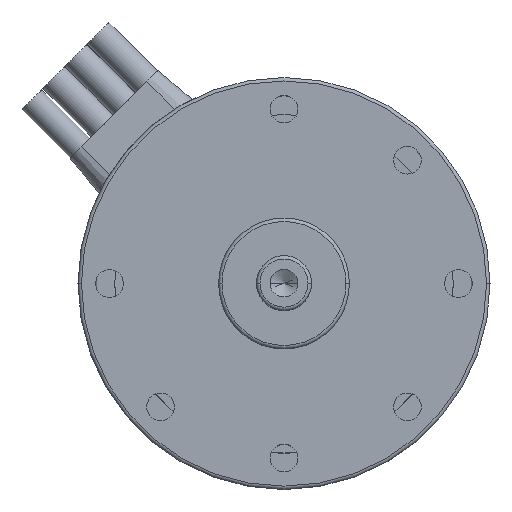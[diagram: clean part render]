
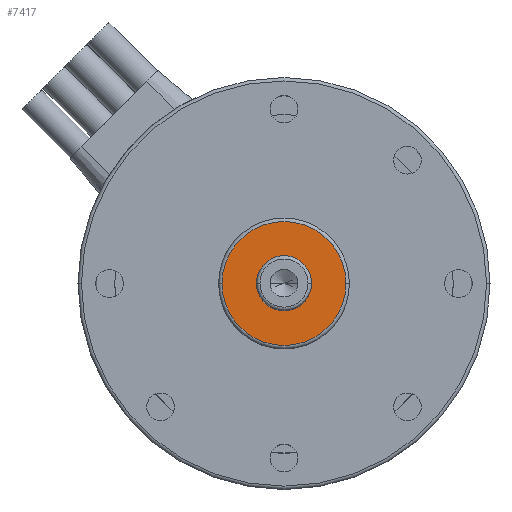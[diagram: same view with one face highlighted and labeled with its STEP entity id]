
A CAD part, top view. The second image highlights one B-rep face of the part: STEP entity #7417.
In plain terms, the highlighted planar face has unit normal (0, 0, 1).
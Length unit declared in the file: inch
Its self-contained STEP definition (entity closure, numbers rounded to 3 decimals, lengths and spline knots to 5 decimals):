
#1169 = CARTESIAN_POINT ( 'NONE',  ( -0.35531, 0., 0.1378 ) ) ;
#2044 = EDGE_CURVE ( 'NONE', #28062, #19177, #24865, .T. ) ;
#3781 = DIRECTION ( 'NONE',  ( 1., 0., 0. ) ) ;
#5464 = ORIENTED_EDGE ( 'NONE', *, *, #47372, .T. ) ;
#7417 = ADVANCED_FACE ( 'NONE', ( #23208, #64003 ), #53141, .T. ) ;
#8557 = DIRECTION ( 'NONE',  ( 1., 0., 0. ) ) ;
#9312 = DIRECTION ( 'NONE',  ( 0., 0., 1. ) ) ;
#13950 = CIRCLE ( 'NONE', #14974, 0.15748 ) ;
#14974 = AXIS2_PLACEMENT_3D ( 'NONE', #18538, #9312, #58663 ) ;
#17221 = CIRCLE ( 'NONE', #45558, 0.15748 ) ;
#18538 = CARTESIAN_POINT ( 'NONE',  ( 0., 0., 0.1378 ) ) ;
#19177 = VERTEX_POINT ( 'NONE', #58506 ) ;
#22391 = EDGE_CURVE ( 'NONE', #52031, #24825, #17221, .T. ) ;
#23208 = FACE_BOUND ( 'NONE', #63582, .T. ) ;
#23270 = CARTESIAN_POINT ( 'NONE',  ( 0.15748, 0., 0.1378 ) ) ;
#23939 = DIRECTION ( 'NONE',  ( 1., 0., 0. ) ) ;
#24825 = VERTEX_POINT ( 'NONE', #53443 ) ;
#24865 = CIRCLE ( 'NONE', #27971, 0.35531 ) ;
#27842 = AXIS2_PLACEMENT_3D ( 'NONE', #48529, #43897, #3781 ) ;
#27971 = AXIS2_PLACEMENT_3D ( 'NONE', #34417, #59791, #23939 ) ;
#28062 = VERTEX_POINT ( 'NONE', #1169 ) ;
#28770 = DIRECTION ( 'NONE',  ( 0., 0., 1. ) ) ;
#28930 = ORIENTED_EDGE ( 'NONE', *, *, #2044, .T. ) ;
#31452 = EDGE_CURVE ( 'NONE', #24825, #52031, #13950, .T. ) ;
#33379 = CARTESIAN_POINT ( 'NONE',  ( 0., 0., 0.1378 ) ) ;
#34287 = ORIENTED_EDGE ( 'NONE', *, *, #31452, .F. ) ;
#34417 = CARTESIAN_POINT ( 'NONE',  ( 0., 0., 0.1378 ) ) ;
#37824 = DIRECTION ( 'NONE',  ( 0., 0., 1. ) ) ;
#43260 = DIRECTION ( 'NONE',  ( 1., 0., 0. ) ) ;
#43897 = DIRECTION ( 'NONE',  ( 0., 0., 1. ) ) ;
#45558 = AXIS2_PLACEMENT_3D ( 'NONE', #33379, #28770, #43260 ) ;
#47372 = EDGE_CURVE ( 'NONE', #19177, #28062, #56685, .T. ) ;
#48529 = CARTESIAN_POINT ( 'NONE',  ( 0., 0., 0.1378 ) ) ;
#52031 = VERTEX_POINT ( 'NONE', #23270 ) ;
#53141 = PLANE ( 'NONE',  #27842 ) ;
#53300 = CARTESIAN_POINT ( 'NONE',  ( 0., 0., 0.1378 ) ) ;
#53443 = CARTESIAN_POINT ( 'NONE',  ( -0.15748, 0., 0.1378 ) ) ;
#56685 = CIRCLE ( 'NONE', #61954, 0.35531 ) ;
#58506 = CARTESIAN_POINT ( 'NONE',  ( 0.35531, 0., 0.1378 ) ) ;
#58663 = DIRECTION ( 'NONE',  ( 1., 0., 0. ) ) ;
#59791 = DIRECTION ( 'NONE',  ( 0., 0., 1. ) ) ;
#61954 = AXIS2_PLACEMENT_3D ( 'NONE', #53300, #37824, #8557 ) ;
#63270 = EDGE_LOOP ( 'NONE', ( #5464, #28930 ) ) ;
#63582 = EDGE_LOOP ( 'NONE', ( #34287, #64825 ) ) ;
#64003 = FACE_OUTER_BOUND ( 'NONE', #63270, .T. ) ;
#64825 = ORIENTED_EDGE ( 'NONE', *, *, #22391, .F. ) ;
